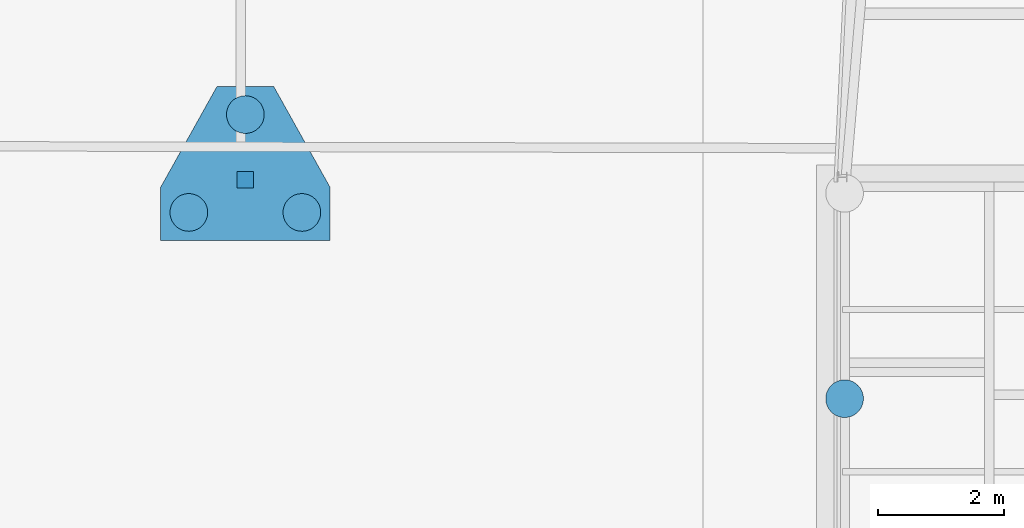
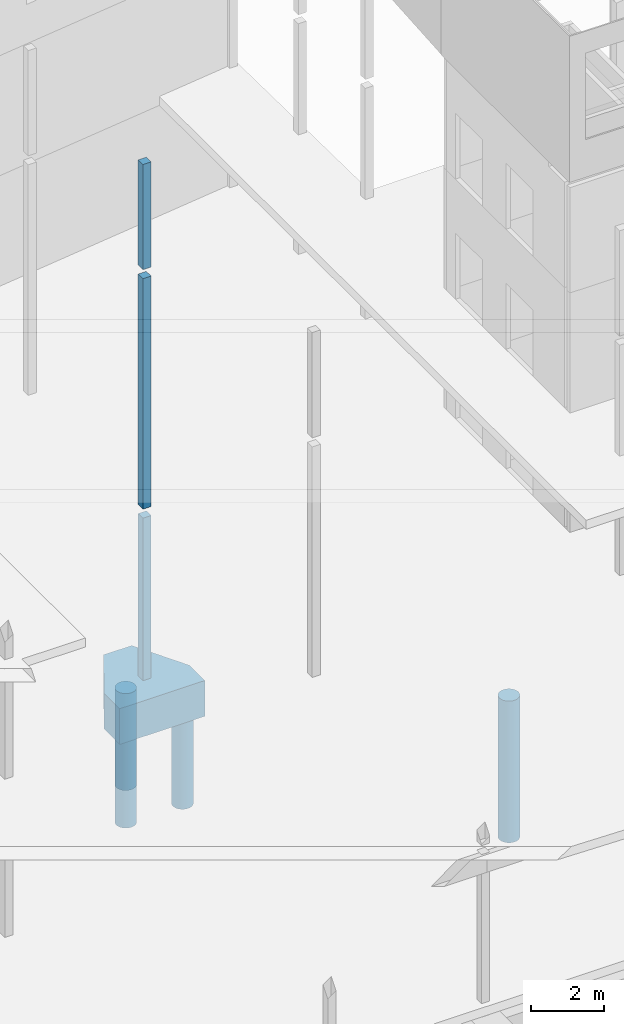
# One storey, part 25 of 82: 8 columns.
"""IFC2X3 building model written with IfcOpenShell, lengths in millimetres."""

import ifcopenshell
import ifcopenshell.guid

model = None  # the IFC model being written
_history = None  # IfcOwnerHistory: only IFC2X3 demands one
_inside = {}  # id of a spatial element -> (the spatial element, [elements in it])
_under = {}  # id of a project, library or spatial element -> (it, [spatial elements below it])
_declared = {}  # id of a project -> (the project, [libraries it declares])
_typed = {}  # id of a type object -> (the type object, [elements of that type])
_made_of = {}  # id of a material, layer set ... -> (it, [elements and type objects made of it])


def new_model(schema):
    """Start an empty IFC model of exactly this schema.

    Asked for "IFC4X3", IfcOpenShell would pick the latest addendum, in which some entities
    have other attributes; the version numbers below select the first issue.
    IFC2X3 requires an IfcOwnerHistory on every rooted entity: one is made here for all.
    """
    global model, _history
    if schema == "IFC4X3":
        model = ifcopenshell.file(schema_version=(4, 3, 0, 0))
    else:
        model = ifcopenshell.file(schema=schema)
    _inside.clear()
    _under.clear()
    _declared.clear()
    _typed.clear()
    _made_of.clear()
    _history = None
    if model.schema == "IFC2X3":
        org = make("IfcOrganization", Name="unknown")
        user = make(
            "IfcPersonAndOrganization",
            ThePerson=make("IfcPerson", FamilyName="unknown"),
            TheOrganization=org,
        )
        app = make(
            "IfcApplication",
            ApplicationDeveloper=org,
            Version="unknown",
            ApplicationFullName="unknown",
            ApplicationIdentifier="unknown",
        )
        _history = make(
            "IfcOwnerHistory",
            OwningUser=user,
            OwningApplication=app,
            ChangeAction="ADDED",
            CreationDate=0,
        )
    return model


def make(cls, **values):
    """One entity of the class cls with the attributes given. An attribute that is None is left unset."""
    return model.create_entity(
        cls, **{name: value for name, value in values.items() if value is not None}
    )


def rooted(cls, **values):
    """An entity with a GlobalId (a new one), such as an element, a storey or a relation."""
    return make(cls, GlobalId=ifcopenshell.guid.new(), OwnerHistory=_history, **values)


def si_unit(unit_type, name, prefix=None):
    """IfcSIUnit, for example si_unit("LENGTHUNIT", "METRE", prefix="MILLI")."""
    return make("IfcSIUnit", UnitType=unit_type, Prefix=prefix, Name=name)


def assignment(units):
    """IfcUnitAssignment: the units of a project."""
    return None if units is None else make("IfcUnitAssignment", Units=units)


def point(xyz):
    """IfcCartesianPoint."""
    return None if xyz is None else make("IfcCartesianPoint", Coordinates=xyz)


def direction(xyz):
    """IfcDirection."""
    return None if xyz is None else make("IfcDirection", DirectionRatios=xyz)


def frame(location, z_axis=None, x_axis=None):
    """IfcAxis2Placement3D, a coordinate frame: its origin and axes. An axis left out is left unset."""
    return make(
        "IfcAxis2Placement3D",
        Location=point(location),
        Axis=direction(z_axis),
        RefDirection=direction(x_axis),
    )


def frame_2d(location, x_axis=None):
    """IfcAxis2Placement2D, a coordinate frame in the plane: its origin and x axis."""
    return make(
        "IfcAxis2Placement2D", Location=point(location), RefDirection=direction(x_axis)
    )


def origin_with_axes():
    """The frame at (0, 0, 0) with the z axis (0, 0, 1) and the x axis (1, 0, 0) written out."""
    return frame((0.0, 0.0, 0.0), z_axis=(0.0, 0.0, 1.0), x_axis=(1.0, 0.0, 0.0))


def place(relative_to, where):
    """IfcLocalPlacement: puts the frame where relative to a parent placement (None: the world)."""
    return make(
        "IfcLocalPlacement", PlacementRelTo=relative_to, RelativePlacement=where
    )


def context(
    kind, dimensions, precision=None, world=None, true_north=None, identifier=None
):
    """IfcGeometricRepresentationContext, for example the 3D "Model" context."""
    return make(
        "IfcGeometricRepresentationContext",
        ContextIdentifier=identifier,
        ContextType=kind,
        CoordinateSpaceDimension=dimensions,
        Precision=precision,
        WorldCoordinateSystem=world,
        TrueNorth=true_north,
    )


def subcontext(parent, identifier, kind, view, scale=None):
    """IfcGeometricRepresentationSubContext, for example "Body" below "Model"."""
    return make(
        "IfcGeometricRepresentationSubContext",
        ContextIdentifier=identifier,
        ContextType=kind,
        ParentContext=parent,
        TargetScale=scale,
        TargetView=view,
    )


def project(units=None, contexts=None):
    """IfcProject with its units and contexts."""
    return rooted(
        "IfcProject",
        Name="project",
        RepresentationContexts=contexts,
        UnitsInContext=assignment(units),
    )


def spatial(cls, under=None, at=None, **own):
    """A site, building, storey or space (cls), placed at a placement, below another one or the project."""
    s = rooted(cls, ObjectPlacement=at, **own)
    if under is not None:
        _under.setdefault(under.id(), (under, []))[1].append(s)
    return s


def polyline(points):
    """IfcPolyline through the points."""
    return make("IfcPolyline", Points=[point(p) for p in points])


def profile(cls, at=None, kind="AREA", **sizes):
    """A parametric profile (cls). Its sizes go by their IFC names, for example OverallWidth=200.0."""
    return make(cls, ProfileType=kind, Position=at, **sizes)


def rectangle(**sizes):
    """IfcRectangleProfileDef."""
    return profile("IfcRectangleProfileDef", **sizes)


def circle(**sizes):
    """IfcCircleProfileDef."""
    return profile("IfcCircleProfileDef", **sizes)


def outline(outer, holes=None, kind="AREA"):
    """IfcArbitraryClosedProfileDef: a profile drawn as a closed curve; with holes, ...WithVoids."""
    if holes is None:
        return make("IfcArbitraryClosedProfileDef", ProfileType=kind, OuterCurve=outer)
    return make(
        "IfcArbitraryProfileDefWithVoids",
        ProfileType=kind,
        OuterCurve=outer,
        InnerCurves=holes,
    )


def extrude(swept, where, along, depth):
    """IfcExtrudedAreaSolid: the profile swept, set in the frame where, extruded along a direction by depth."""
    return make(
        "IfcExtrudedAreaSolid",
        SweptArea=swept,
        Position=where,
        ExtrudedDirection=direction(along),
        Depth=depth,
    )


def shape(context_of_items, identifier, shape_type, items):
    """IfcShapeRepresentation: the items that make up one representation, for example the "Body"."""
    return make(
        "IfcShapeRepresentation",
        ContextOfItems=context_of_items,
        RepresentationIdentifier=identifier,
        RepresentationType=shape_type,
        Items=items,
    )


def material(Name=None, Category=None):
    """IfcMaterial."""
    return make("IfcMaterial", Name=Name, Category=Category)


def made_of(thing, what):
    """Note that an element or type object is made of a material, layer set ...; save() writes the relation."""
    if what is not None:
        _made_of.setdefault(what.id(), (what, []))[1].append(thing)
    return thing


def type_object(cls, material=None, **own):
    """A type object (cls), such as IfcWallType, which elements share."""
    return made_of(rooted(cls, **own), material)


def element(
    cls,
    number,
    at=None,
    inside=None,
    cuts=None,
    type_object=None,
    material=None,
    context=None,
    identifier="Body",
    shape_type=None,
    held_by="IfcProductDefinitionShape",
    body=None,
    shapes=None,
    **own,
):
    """One element of the class cls, such as IfcWall. Its Tag is "e" and its number.

    at: its placement. inside: the storey or other place that contains it. cuts: it is an
    opening in that element (IfcRelVoidsElement). A single representation is given by context,
    identifier, shape_type and body (its items); several are given by shapes. held_by: the class
    of the entity that holds the representations. save() writes the other relations.
    """
    e = rooted(cls, Tag="e%d" % number, ObjectPlacement=at, **own)
    if body is not None:
        shapes = [shape(context, identifier, shape_type, body)]
    if shapes is not None:
        e.Representation = make(held_by, Representations=shapes)
    if inside is not None:
        _inside.setdefault(inside.id(), (inside, []))[1].append(e)
    if cuts is not None:
        rooted(
            "IfcRelVoidsElement", RelatingBuildingElement=cuts, RelatedOpeningElement=e
        )
    if type_object is not None:
        _typed.setdefault(type_object.id(), (type_object, []))[1].append(e)
    return made_of(e, material)


def aggregate(whole, parts):
    """IfcRelAggregates: a whole, such as a stair, and the parts it consists of."""
    return rooted("IfcRelAggregates", RelatingObject=whole, RelatedObjects=parts)


def save(model, path):
    """Write the relations noted so far, then the file.

    IfcRelAggregates (storeys below a building ...), IfcRelContainedInSpatialStructure (elements
    in a storey), IfcRelDefinesByType, IfcRelAssociatesMaterial and IfcRelDeclares: one each for
    every whole, place, type object, material and project.
    """
    for whole, parts in _under.values():
        aggregate(whole, parts)
    for where, things in _inside.values():
        rooted(
            "IfcRelContainedInSpatialStructure",
            RelatedElements=things,
            RelatingStructure=where,
        )
    for kind, things in _typed.values():
        rooted("IfcRelDefinesByType", RelatedObjects=things, RelatingType=kind)
    for what, things in _made_of.values():
        rooted("IfcRelAssociatesMaterial", RelatedObjects=things, RelatingMaterial=what)
    for by, libraries in _declared.values():
        rooted("IfcRelDeclares", RelatingContext=by, RelatedDefinitions=libraries)
    model.write(path)


model = new_model("IFC2X3")

# Units and contexts
model_context = context("Model", 3, precision=1e-05, world=origin_with_axes())
body_context = subcontext(model_context, "Body", "Model", "MODEL_VIEW")
ifc_project = project(units=[si_unit("LENGTHUNIT", "METRE", prefix="MILLI"), si_unit("AREAUNIT", "SQUARE_METRE"), si_unit("VOLUMEUNIT", "CUBIC_METRE"), si_unit("MASSUNIT", "GRAM", prefix="KILO"), si_unit("TIMEUNIT", "SECOND"), si_unit("PLANEANGLEUNIT", "RADIAN"), si_unit("SOLIDANGLEUNIT", "STERADIAN"), si_unit("THERMODYNAMICTEMPERATUREUNIT", "DEGREE_CELSIUS"), si_unit("LUMINOUSINTENSITYUNIT", "LUMEN")], contexts=[model_context])

# Site, building, storey
site_placement = place(None, origin_with_axes())
site = spatial("IfcSite", under=ifc_project, at=site_placement, Name="Undefined", CompositionType="ELEMENT")
building_placement = place(site_placement, origin_with_axes())
building = spatial("IfcBuilding", under=site, at=building_placement, Name="Undefined", CompositionType="ELEMENT")
storey_placement = place(building_placement, origin_with_axes())
storey = spatial("IfcBuildingStorey", under=building, at=storey_placement, Name="Undefined", CompositionType="ELEMENT", Elevation=0.0)

# Columns
ifc_material_1 = material(Name="CONCRETE/C25/30")
column_type_1 = type_object("IfcColumnType", Name="260*260", PredefinedType="NOTDEFINED")
column_1_placement = place(storey_placement, frame((19499.9999999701, 18599.9998779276, 13330.0), z_axis=(0.0, 0.0, 1.0), x_axis=(1.0, 0.0, 0.0)))
element("IfcColumn", 1, at=column_1_placement, inside=storey, type_object=column_type_1, material=ifc_material_1, Name="POTEAU", ObjectType="260*260", context=body_context, shape_type="SweptSolid", body=[
    extrude(rectangle(XDim=260.0, YDim=260.0, at=frame_2d((5.17284206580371e-08, 4.49290382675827e-10), x_axis=(1.0, 0.0))), frame((0.0, 0.0, 3529.99999999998), z_axis=(0.0, -6.50000002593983e-08, -0.999999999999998), x_axis=(-1.0, 0.0, 0.0)), (0.0, 0.0, 1.0), 3530.0),
])
column_2_placement = place(storey_placement, frame((19499.9999999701, 18599.9998779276, 5300.0), z_axis=(0.0, 0.0, 1.0), x_axis=(1.0, 0.0, 0.0)))
element("IfcColumn", 2, at=column_2_placement, inside=storey, type_object=column_type_1, material=ifc_material_1, Name="POTEAU", ObjectType="260*260", context=body_context, shape_type="SweptSolid", body=[
    extrude(rectangle(XDim=260.0, YDim=260.0, at=frame_2d((5.17284206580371e-08, 4.49290382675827e-10), x_axis=(1.0, 0.0))), frame((0.0, 0.0, 7730.0), z_axis=(0.0, -6.50000002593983e-08, -0.999999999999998), x_axis=(-1.0, 0.0, 0.0)), (0.0, 0.0, 1.0), 7730.0),
])
column_3_placement = place(storey_placement, frame((19499.9999999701, 18599.9998779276, -449.999511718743), z_axis=(0.0, 0.0, 1.0), x_axis=(1.0, 0.0, 0.0)))
element("IfcColumn", 3, at=column_3_placement, inside=storey, type_object=column_type_1, material=ifc_material_1, Name="POTEAU", ObjectType="260*260", context=body_context, shape_type="SweptSolid", body=[
    extrude(rectangle(XDim=260.0, YDim=260.0, at=frame_2d((5.17284206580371e-08, 4.49290382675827e-10), x_axis=(1.0, 0.0))), frame((0.0, 0.0, 5449.9995117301), z_axis=(0.0, -6.50000002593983e-08, -0.999999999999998), x_axis=(-1.0, 0.0, 0.0)), (0.0, 0.0, 1.0), 5450.0),
])
ifc_material_2 = material(Name="CONCRETE/C30/37")
column_type_2 = type_object("IfcColumnType", Name="1200*2460", PredefinedType="NOTDEFINED")
column_4_placement = place(storey_placement, frame((19049.9997110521, 20090.000000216, -1050.00146572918), z_axis=(0.0, 0.0, 1.0), x_axis=(-0.487942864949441, -0.872875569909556, 0.0)))
element("IfcColumn", 4, at=column_4_placement, inside=storey, type_object=column_type_2, material=ifc_material_2, Name="SEMELLE", ObjectType="1200*2460", context=body_context, shape_type="SweptSolid", body=[
    extrude(outline(polyline([(5.17284206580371e-08, 4.49290382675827e-10), (1844.47827153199, -8.99672158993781e-09), (2586.42260747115, 414.751434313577), (1268.97668460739, 2771.51538083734), (527.032531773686, 2356.76416013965), (-439.148559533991, 785.588012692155), (5.17284206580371e-08, 4.49290382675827e-10)])), frame((0.0, 0.0, -600.0), z_axis=(0.0, 0.0, 1.0), x_axis=(1.0, 0.0, 0.0)), (0.0, 0.0, 1.0), 1200.0),
])
column_type_3 = type_object("IfcColumnType", Name="D600", PredefinedType="NOTDEFINED")
for number, where, z_axis, x_axis in (
    (5, (20399.9999999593, 18080.3999999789, -4675.0), (0.0, 0.0, 1.0), (1.0, 0.0, 0.0)),
    (6, (18599.9999999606, 18080.3999999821, -4675.0), (0.0, 0.0, 1.0), (1.0, 0.0, 0.0)),
    (7, (19499.9999999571, 19639.1999999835, -4675.0), (0.0, 0.0, 1.0), (1.0, 0.0, 0.0)),
):
    element("IfcColumn", number, at=place(storey_placement, frame(where, z_axis=z_axis, x_axis=x_axis)), inside=storey, type_object=column_type_3, material=ifc_material_1, Name="PIEU", ObjectType="D600", context=body_context, shape_type="SweptSolid", body=[
        extrude(circle(Radius=300.0, at=frame_2d((5.17284206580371e-08, 4.49290382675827e-10), x_axis=(1.0, 0.0))), frame((0.0, 0.0, 3250.0), z_axis=(0.0, -6.50000002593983e-08, -0.999999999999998), x_axis=(-1.0, 0.0, 0.0)), (0.0, 0.0, 1.0), 3250.0),
    ])
column_5_placement = place(storey_placement, frame((29042.5131017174, 15114.7663383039, -7025.0), z_axis=(0.0, 0.0, 1.0), x_axis=(1.0, 0.0, 0.0)))
element("IfcColumn", 8, at=column_5_placement, inside=storey, type_object=column_type_3, material=ifc_material_1, Name="PIEU", ObjectType="D600", context=body_context, shape_type="SweptSolid", body=[
    extrude(circle(Radius=300.0, at=frame_2d((5.17284206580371e-08, 4.49290382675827e-10), x_axis=(1.0, 0.0))), frame((0.0, 0.0, 4750.0), z_axis=(0.0, -6.50000002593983e-08, -0.999999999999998), x_axis=(1.0, 0.0, 0.0)), (0.0, 0.0, 1.0), 4750.0),
])

save(model, "model.ifc")
